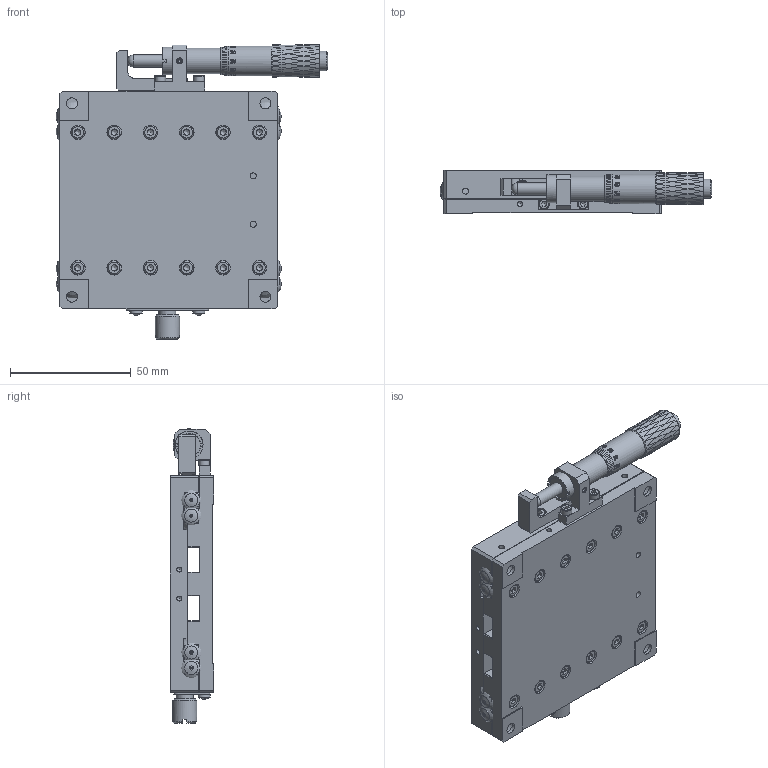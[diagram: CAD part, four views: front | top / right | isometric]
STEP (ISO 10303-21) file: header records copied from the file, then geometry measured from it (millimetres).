
FILE_DESCRIPTION (( 'STEP AP203' ), '1' );
FILE_NAME ('BPTA90.STEP', '2024-07-25T07:17:28', ( 'Windows User' ), ( 'P R C' ), 'SwSTEP 2.0', 'SolidWorks 2024', '' );
FILE_SCHEMA (( 'CONFIG_CONTROL_DESIGN' ));
Products named in the file (1): BPTA90
Bounding box: 112.3 x 18 x 121.65 mm (x, y, z)
Volume: 125558.4 mm3; surface area: 78990.2 mm2
Topology: 46 solids, 46 shells, 2374 faces, 5874 edges, 3747 vertices
Faces by surface type: plane 1043, bspline 565, cylinder 426, cone 300, torus 37, sphere 3
Full cylindrical faces by diameter (mm): 1 x4, 2 x32, 2.05 x14, 2.5 x14, 2.55 x24, 3 x28, 3.1 x2, 3.2 x2, 3.3 x15, 3.4 x24, 4.4 x24, 4.5 x6, 5 x4, 5.5 x26, 5.8 x2, 6 x24, 7 x1, 8 x6, 8.1 x1, 9 x1, 9.5 x2, 10 x1, 10.373 x1, 11.5 x1, 12.25 x1, 13.3 x1
Entity records: 111946 total; most frequent: CARTESIAN_POINT 63345, ORIENTED_EDGE 10540, DIRECTION 7755, EDGE_CURVE 5270, VERTEX_POINT 3646, EDGE_LOOP 3324, AXIS2_PLACEMENT_3D 2867, FACE_OUTER_BOUND 2667
